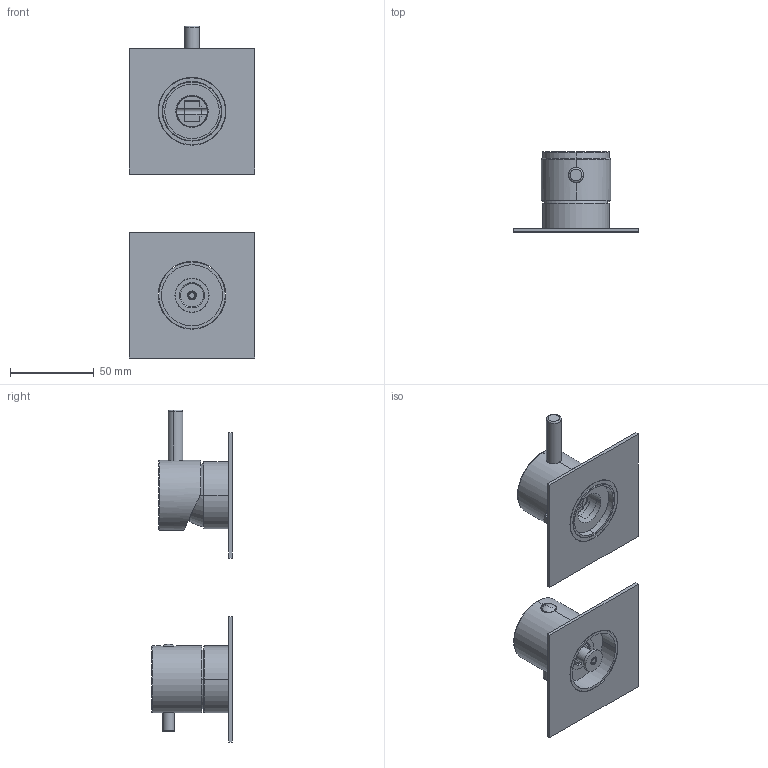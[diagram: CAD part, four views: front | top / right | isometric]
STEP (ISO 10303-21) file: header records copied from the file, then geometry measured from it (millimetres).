
FILE_DESCRIPTION((''),'2;1');
FILE_NAME('12563V2_SW0001','2024-10-10T09:00:18',('volponeff'),(''),'CREO PARAMETRIC BY PTC INC, 2022014','CREO PARAMETRIC BY PTC INC, 2022014','');
FILE_SCHEMA(('CONFIG_CONTROL_DESIGN'));
Products named in the file (1): 12563V2_SW0001
Bounding box: 75 x 48.1 x 198.5 mm (x, y, z)
Volume: 75878.2 mm3; surface area: 69328 mm2
Topology: 7 solids, 7 shells, 753 faces, 2089 edges, 1360 vertices
Faces by surface type: cylinder 306, plane 244, cone 78, torus 62, bspline 61, sphere 2
Entity records: 54210 total; most frequent: CARTESIAN_POINT 35548, ORIENTED_EDGE 4162, DIRECTION 3561, EDGE_CURVE 2081, VERTEX_POINT 1360, AXIS2_PLACEMENT_3D 1316, VECTOR 929, LINE 929
